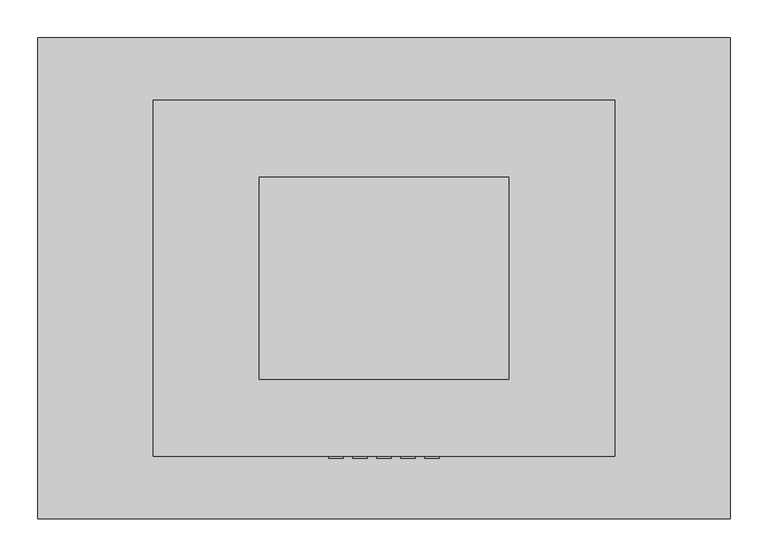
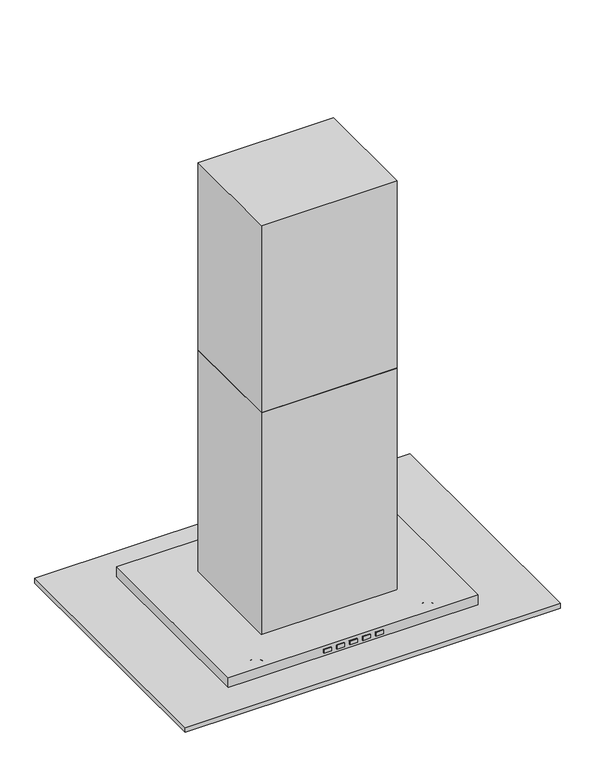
"""IFC4 building model written with IfcOpenShell, lengths in millimetres: light fixture geometry, Island_Range_Hood_-_Venice_5338 : Island_Range_Hood_-_Venice_5338."""

from ifc_helpers import new_model, si_unit, point, frame, frame_2d, origin, place, context, project, spatial, polyline, circle_curve, ellipse_curve, trimmed, segment, composite_curve, outline, extrude, source, transform, mapped, element, save
from ifc_brep_helpers import plane_surface, cylinder_surface, revolved_surface, advanced_brep


def light_fixture_2c5a0347(model_context):
    return source(origin(), model_context, "Body", "SolidModel", [
        advanced_brep(
        [(-209.0619324, -162.1094756, 1371.6), (-209.0619324, -212.9094756, 1371.6), (-209.0619324, 212.9094756, 1371.6), (-209.0619324, 162.1094756, 1371.6), (209.0619324, -162.1094756, 1371.6), (209.0619324, -212.9094756, 1371.6), (209.0619324, 212.9094756, 1371.6), (209.0619324, 162.1094756, 1371.6), (241.3, -127.0, 1371.6), (-241.3, -127.0, 1371.6), (-241.3, 127.0, 1371.6), (241.3, 127.0, 1371.6), (-304.8, 234.95, 1384.3), (-304.8, -234.95, 1384.3), (304.8, -234.95, 1384.3), (304.8, 234.95, 1384.3), (304.8, 234.95, 1346.2), (-304.8, 234.95, 1346.2), (304.8, -234.95, 1346.2), (-304.8, -234.95, 1346.2), (-209.0619324, -162.1094756, 1346.2), (-209.0619324, -212.9094756, 1346.2), (-209.0619324, 212.9094756, 1346.2), (-209.0619324, 162.1094756, 1346.2), (209.0619324, -162.1094756, 1346.2), (209.0619324, -212.9094756, 1346.2), (209.0619324, 212.9094756, 1346.2), (209.0619324, 162.1094756, 1346.2), (241.3, -127.0, 1346.2), (241.3, 127.0, 1346.2), (-241.3, 127.0, 1346.2), (-241.3, -127.0, 1346.2)],
        [
            (0, 1, circle_curve(frame((-209.0619324, -187.5094756, 1371.6), z_axis=(0.0, 0.0, -1.0), x_axis=(0.0, -1.0, 0.0)), 25.4)),
            (1, 0, circle_curve(frame((-209.0619324, -187.5094756, 1371.6), z_axis=(0.0, 0.0, -1.0), x_axis=(0.0, -1.0, 0.0)), 25.4)),
            (2, 3, circle_curve(frame((-209.0619324, 187.5094756, 1371.6), z_axis=(0.0, 0.0, -1.0), x_axis=(0.0, -1.0, 0.0)), 25.4)),
            (3, 2, circle_curve(frame((-209.0619324, 187.5094756, 1371.6), z_axis=(0.0, 0.0, -1.0), x_axis=(0.0, -1.0, 0.0)), 25.4)),
            (4, 5, circle_curve(frame((209.0619324, -187.5094756, 1371.6), z_axis=(0.0, 0.0, -1.0), x_axis=(0.0, -1.0, 0.0)), 25.4)),
            (5, 4, circle_curve(frame((209.0619324, -187.5094756, 1371.6), z_axis=(0.0, 0.0, -1.0), x_axis=(0.0, -1.0, 0.0)), 25.4)),
            (6, 7, circle_curve(frame((209.0619324, 187.5094756, 1371.6), z_axis=(0.0, 0.0, -1.0), x_axis=(0.0, -1.0, 0.0)), 25.4)),
            (7, 6, circle_curve(frame((209.0619324, 187.5094756, 1371.6), z_axis=(0.0, 0.0, -1.0), x_axis=(0.0, -1.0, 0.0)), 25.4)),
            (8, 9),
            (9, 10),
            (10, 11),
            (11, 8),
            (12, 13),
            (13, 14),
            (14, 15),
            (15, 12),
            (15, 16),
            (16, 17),
            (17, 12),
            (14, 18),
            (18, 16),
            (13, 19),
            (19, 18),
            (17, 19),
            (20, 21, circle_curve(frame((-209.0619324, -187.5094756, 1346.2), z_axis=(0.0, 0.0, 1.0), x_axis=(0.0, -1.0, 0.0)), 25.4)),
            (21, 20, circle_curve(frame((-209.0619324, -187.5094756, 1346.2), z_axis=(0.0, 0.0, 1.0), x_axis=(0.0, -1.0, 0.0)), 25.4)),
            (22, 23, circle_curve(frame((-209.0619324, 187.5094756, 1346.2), z_axis=(0.0, 0.0, 1.0), x_axis=(0.0, -1.0, 0.0)), 25.4)),
            (23, 22, circle_curve(frame((-209.0619324, 187.5094756, 1346.2), z_axis=(0.0, 0.0, 1.0), x_axis=(0.0, -1.0, 0.0)), 25.4)),
            (24, 25, circle_curve(frame((209.0619324, -187.5094756, 1346.2), z_axis=(0.0, 0.0, 1.0), x_axis=(0.0, -1.0, 0.0)), 25.4)),
            (25, 24, circle_curve(frame((209.0619324, -187.5094756, 1346.2), z_axis=(0.0, 0.0, 1.0), x_axis=(0.0, -1.0, 0.0)), 25.4)),
            (26, 27, circle_curve(frame((209.0619324, 187.5094756, 1346.2), z_axis=(0.0, 0.0, 1.0), x_axis=(0.0, -1.0, 0.0)), 25.4)),
            (27, 26, circle_curve(frame((209.0619324, 187.5094756, 1346.2), z_axis=(0.0, 0.0, 1.0), x_axis=(0.0, -1.0, 0.0)), 25.4)),
            (28, 29),
            (29, 30),
            (30, 31),
            (31, 28),
            (21, 1),
            (0, 20),
            (23, 3),
            (2, 22),
            (25, 5),
            (4, 24),
            (27, 7),
            (6, 26),
            (31, 9),
            (8, 28),
            (30, 10),
            (29, 11),
        ],
        [
            plane_surface(frame((0.0, 0.0, 1371.6), z_axis=(0.0, 0.0, -1.0), x_axis=(0.0, -1.0, 0.0))),
            plane_surface(frame((0.0, 0.0, 1384.3), z_axis=(0.0, 0.0, 1.0), x_axis=(0.0, -1.0, 0.0))),
            plane_surface(frame((-304.8, 234.95, 1371.6), z_axis=(0.0, 1.0, 0.0), x_axis=(0.0, 0.0, 1.0))),
            plane_surface(frame((304.8, 234.95, 1371.6), z_axis=(1.0, 0.0, 0.0), x_axis=(0.0, 0.0, 1.0))),
            plane_surface(frame((304.8, -234.95, 1371.6), z_axis=(0.0, -1.0, 0.0), x_axis=(0.0, 0.0, 1.0))),
            plane_surface(frame((-304.8, -234.95, 1371.6), z_axis=(-1.0, 0.0, 0.0), x_axis=(0.0, 0.0, 1.0))),
            plane_surface(frame((0.0, 0.0, 1346.2), z_axis=(0.0, 0.0, -1.0), x_axis=(0.0, -1.0, 0.0))),
            revolved_surface(polyline([(-209.0619324, -212.9094756, 1346.2), (-209.0619324, -212.9094756, 1371.6)]), (-209.0619324, -187.5094756, 1371.6), (0.0, 0.0, -1.0)),
            revolved_surface(polyline([(-209.0619324, 162.1094756, 1346.2), (-209.0619324, 162.1094756, 1371.6)]), (-209.0619324, 187.5094756, 1371.6), (0.0, 0.0, -1.0)),
            revolved_surface(polyline([(209.0619324, -212.9094756, 1346.2), (209.0619324, -212.9094756, 1371.6)]), (209.0619324, -187.5094756, 1371.6), (0.0, 0.0, -1.0)),
            revolved_surface(polyline([(209.0619324, 162.1094756, 1346.2), (209.0619324, 162.1094756, 1371.6)]), (209.0619324, 187.5094756, 1371.6), (0.0, 0.0, -1.0)),
            plane_surface(frame((241.3, -127.0, 1371.6), z_axis=(0.0, 1.0, 0.0), x_axis=(0.0, 0.0, -1.0))),
            plane_surface(frame((-241.3, -127.0, 1371.6), z_axis=(1.0, 0.0, 0.0), x_axis=(0.0, 0.0, -1.0))),
            plane_surface(frame((-241.3, 127.0, 1371.6), z_axis=(0.0, -1.0, 0.0), x_axis=(0.0, 0.0, -1.0))),
            plane_surface(frame((241.3, 127.0, 1371.6), z_axis=(-1.0, 0.0, 0.0), x_axis=(0.0, 0.0, -1.0))),
        ],
        [
            (0, [[1, 2]]),
            (0, [[3, 4]]),
            (0, [[5, 6]]),
            (0, [[7, 8]]),
            (0, [[9, 10, 11, 12]]),
            (1, [[13, 14, 15, 16]]),
            (2, [[-16, 17, 18, 19]]),
            (3, [[-17, -15, 20, 21]]),
            (4, [[-20, -14, 22, 23]]),
            (5, [[-22, -13, -19, 24]]),
            (6, [[-18, -21, -23, -24], [25, 26], [27, 28], [29, 30], [31, 32], [33, 34, 35, 36]]),
            (7, [[-26, 37, -1, 38]]),
            (7, [[-25, -38, -2, -37]]),
            (8, [[-28, 39, -3, 40]]),
            (8, [[-27, -40, -4, -39]]),
            (9, [[-30, 41, -5, 42]]),
            (9, [[-29, -42, -6, -41]]),
            (10, [[-32, 43, -7, 44]]),
            (10, [[-31, -44, -8, -43]]),
            (11, [[-36, 45, -9, 46]]),
            (12, [[-35, 47, -10, -45]]),
            (13, [[-34, 48, -11, -47]]),
            (14, [[-33, -46, -12, -48]]),
        ],
    ),
        extrude(outline(composite_curve([segment(trimmed(circle_curve(frame_2d((-209.0619324, -187.5094756)), 22.225), [point((-231.2869324, -187.5094756))], [point((-186.8369324, -187.5094756))], False, "CARTESIAN"), True, "CONTINUOUS"), segment(trimmed(circle_curve(frame_2d((-209.0619324, -187.5094756)), 22.225), [point((-186.8369324, -187.5094756))], [point((-231.2869324, -187.5094756))], False, "CARTESIAN"), True, "CONTINUOUS")], self_intersect=False)), frame((0.0, 0.0, 1344.6589682), z_axis=(0.0, 0.0, 1.0), x_axis=(1.0, 0.0, 0.0)), (0.0, 0.0, 1.0), 2.9942713),
        extrude(outline(composite_curve([segment(trimmed(circle_curve(frame_2d((209.0619324, -187.5094756)), 22.225), [point((186.8369324, -187.5094756))], [point((231.2869324, -187.5094756))], False, "CARTESIAN"), True, "CONTINUOUS"), segment(trimmed(circle_curve(frame_2d((209.0619324, -187.5094756)), 22.225), [point((231.2869324, -187.5094756))], [point((186.8369324, -187.5094756))], False, "CARTESIAN"), True, "CONTINUOUS")], self_intersect=False)), frame((0.0, 0.0, 1344.6589682), z_axis=(0.0, 0.0, 1.0), x_axis=(1.0, 0.0, 0.0)), (0.0, 0.0, 1.0), 2.9942713),
        extrude(outline(composite_curve([segment(trimmed(circle_curve(frame_2d((-209.0619324, 187.5094756)), 22.225), [point((-231.2869324, 187.5094756))], [point((-186.8369324, 187.5094756))], False, "CARTESIAN"), True, "CONTINUOUS"), segment(trimmed(circle_curve(frame_2d((-209.0619324, 187.5094756)), 22.225), [point((-186.8369324, 187.5094756))], [point((-231.2869324, 187.5094756))], False, "CARTESIAN"), True, "CONTINUOUS")], self_intersect=False)), frame((0.0, 0.0, 1344.6589682), z_axis=(0.0, 0.0, 1.0), x_axis=(1.0, 0.0, 0.0)), (0.0, 0.0, 1.0), 2.9942713),
        extrude(outline(composite_curve([segment(trimmed(circle_curve(frame_2d((209.0619324, 187.5094756)), 22.225), [point((186.8369324, 187.5094756))], [point((231.2869324, 187.5094756))], False, "CARTESIAN"), True, "CONTINUOUS"), segment(trimmed(circle_curve(frame_2d((209.0619324, 187.5094756)), 22.225), [point((231.2869324, 187.5094756))], [point((186.8369324, 187.5094756))], False, "CARTESIAN"), True, "CONTINUOUS")], self_intersect=False)), frame((0.0, 0.0, 1344.6589682), z_axis=(0.0, 0.0, 1.0), x_axis=(1.0, 0.0, 0.0)), (0.0, 0.0, 1.0), 2.9942713),
        extrude(outline(polyline([(-9.525, -234.95), (9.525, -234.95), (9.525, -237.6432213), (-9.525, -237.6432213), (-9.525, -234.95)])), frame((0.0, 0.0, 1366.8375), z_axis=(0.0, 0.0, 1.0), x_axis=(1.0, 0.0, 0.0)), (0.0, 0.0, 1.0), 9.525),
        extrude(outline(polyline([(22.225, -234.95), (41.275, -234.95), (41.275, -237.6432213), (22.225, -237.6432213), (22.225, -234.95)])), frame((0.0, 0.0, 1366.8375), z_axis=(0.0, 0.0, 1.0), x_axis=(1.0, 0.0, 0.0)), (0.0, 0.0, 1.0), 9.525),
        extrude(outline(polyline([(53.975, -234.95), (73.025, -234.95), (73.025, -237.6432213), (53.975, -237.6432213), (53.975, -234.95)])), frame((0.0, 0.0, 1366.8375), z_axis=(0.0, 0.0, 1.0), x_axis=(1.0, 0.0, 0.0)), (0.0, 0.0, 1.0), 9.525),
        extrude(outline(polyline([(-41.275, -234.95), (-22.225, -234.95), (-22.225, -237.6432213), (-41.275, -237.6432213), (-41.275, -234.95)])), frame((0.0, 0.0, 1366.8375), z_axis=(0.0, 0.0, 1.0), x_axis=(1.0, 0.0, 0.0)), (0.0, 0.0, 1.0), 9.525),
        extrude(outline(polyline([(-73.025, -234.95), (-53.975, -234.95), (-53.975, -237.6432213), (-73.025, -237.6432213), (-73.025, -234.95)])), frame((0.0, 0.0, 1366.8375), z_axis=(0.0, 0.0, 1.0), x_axis=(1.0, 0.0, 0.0)), (0.0, 0.0, 1.0), 9.525),
        advanced_brep(
        [(-170.9619324, 187.5094756, 1344.6589682), (-247.1619324, 187.5094756, 1344.6589682), (-247.1619324, 187.5094756, 1346.2), (-170.9619324, 187.5094756, 1346.2), (-186.4738453, 187.5094756, 1344.6589682), (-231.6500195, 187.5094756, 1344.6589682), (-186.4738453, 187.5094756, 1347.6532394), (-231.6500195, 187.5094756, 1347.6532394), (-209.0619324, 187.5094756, 1365.25), (-183.6619324, 187.5094756, 1372.6673942), (-234.4619324, 187.5094756, 1372.6673942), (-209.0619324, 187.5094756, 1372.6673942), (-183.6619324, 187.5094756, 1346.2), (-234.4619324, 187.5094756, 1346.2)],
        [
            (0, 1, circle_curve(frame((-209.0619324, 187.5094756, 1344.6589682), z_axis=(0.0, 0.0, 1.0), x_axis=(-1.0, 0.0, 0.0)), 38.1)),
            (1, 2),
            (2, 3, circle_curve(frame((-209.0619324, 187.5094756, 1346.2), z_axis=(0.0, 0.0, -1.0), x_axis=(-1.0, 0.0, 0.0)), 38.1)),
            (3, 0),
            (1, 0, circle_curve(frame((-209.0619324, 187.5094756, 1344.6589682), z_axis=(0.0, 0.0, 1.0), x_axis=(-1.0, 0.0, 0.0)), 38.1)),
            (3, 2, circle_curve(frame((-209.0619324, 187.5094756, 1346.2), z_axis=(0.0, 0.0, -1.0), x_axis=(-1.0, 0.0, 0.0)), 38.1)),
            (4, 5, circle_curve(frame((-209.0619324, 187.5094756, 1344.6589682), z_axis=(0.0, 0.0, 1.0), x_axis=(-1.0, 0.0, 0.0)), 22.5880871)),
            (5, 1),
            (0, 4),
            (5, 4, circle_curve(frame((-209.0619324, 187.5094756, 1344.6589682), z_axis=(0.0, 0.0, 1.0), x_axis=(-1.0, 0.0, 0.0)), 22.5880871)),
            (6, 7, circle_curve(frame((-209.0619324, 187.5094756, 1347.6532394), z_axis=(0.0, 0.0, 1.0), x_axis=(-1.0, 0.0, 0.0)), 22.5880871)),
            (7, 5),
            (4, 6),
            (7, 6, circle_curve(frame((-209.0619324, 187.5094756, 1347.6532394), z_axis=(0.0, 0.0, 1.0), x_axis=(-1.0, 0.0, 0.0)), 22.5880871)),
            (8, 7, circle_curve(frame((-207.8094645, 187.5094756, 1340.3462864), z_axis=(0.0, -1.0, 0.0), x_axis=(1.0, 0.0, 0.0)), 24.9351886)),
            (6, 8, circle_curve(frame((-210.3144003, 187.5094756, 1340.3462864), z_axis=(0.0, -1.0, 0.0), x_axis=(-1.0, 0.0, 0.0)), 24.9351886)),
            (9, 10, circle_curve(frame((-209.0619324, 187.5094756, 1372.6673942), z_axis=(0.0, 0.0, 1.0), x_axis=(-1.0, 0.0, 0.0)), 25.4)),
            (10, 11),
            (11, 9),
            (10, 9, circle_curve(frame((-209.0619324, 187.5094756, 1372.6673942), z_axis=(0.0, 0.0, 1.0), x_axis=(-1.0, 0.0, 0.0)), 25.4)),
            (12, 13, circle_curve(frame((-209.0619324, 187.5094756, 1346.2), z_axis=(0.0, 0.0, 1.0), x_axis=(-1.0, 0.0, 0.0)), 25.4)),
            (13, 10),
            (9, 12),
            (13, 12, circle_curve(frame((-209.0619324, 187.5094756, 1346.2), z_axis=(0.0, 0.0, 1.0), x_axis=(-1.0, 0.0, 0.0)), 25.4)),
            (2, 13),
            (12, 3),
        ],
        [
            cylinder_surface(frame((-209.0619324, 187.5094756, 1346.2), z_axis=(0.0, 0.0, -1.0), x_axis=(-1.0, 0.0, 0.0)), 38.1),
            plane_surface(frame((-209.0619324, 187.5094756, 1344.6589682), z_axis=(0.0, 0.0, -1.0), x_axis=(-1.0, 0.0, 0.0))),
            revolved_surface(polyline([(-231.65001949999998, 187.5094756, 1344.6589682), (-231.65001949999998, 187.5094756, 1347.6532394)]), (-209.0619324, 187.5094756, 1346.2), (0.0, 0.0, -1.0)),
            revolved_surface(trimmed(ellipse_curve(frame((-207.8094645, 187.5094756, 1340.3462864), z_axis=(0.0, 1.0, 0.0), x_axis=(1.0, 0.0, 0.0)), 24.9351886, 24.9351886), [point((-231.6500195, 187.5094756, 1347.6532394))], [point((-209.0619324, 187.5094756, 1365.25))], True, "CARTESIAN"), (-209.0619324, 187.5094756, 1346.2), (0.0, 0.0, -1.0)),
            plane_surface(frame((-209.0619324, 187.5094756, 1372.6673942), z_axis=(0.0, 0.0, 1.0), x_axis=(-1.0, 0.0, 0.0))),
            cylinder_surface(frame((-209.0619324, 187.5094756, 1346.2), z_axis=(0.0, 0.0, -1.0), x_axis=(-1.0, 0.0, 0.0)), 25.4),
            plane_surface(frame((-209.0619324, 187.5094756, 1346.2), z_axis=(0.0, 0.0, 1.0), x_axis=(-1.0, 0.0, 0.0))),
        ],
        [
            (0, [[1, 2, 3, 4]]),
            (0, [[5, -4, 6, -2]]),
            (1, [[7, 8, -1, 9]]),
            (1, [[10, -9, -5, -8]]),
            (2, [[11, 12, -7, 13]]),
            (2, [[14, -13, -10, -12]]),
            (3, [[15, -11, 16]]),
            (3, [[-16, -14, -15]]),
            (4, [[17, 18, 19]]),
            (4, [[20, -19, -18]]),
            (5, [[21, 22, -17, 23]]),
            (5, [[24, -23, -20, -22]]),
            (6, [[-3, 25, -21, 26]]),
            (6, [[-6, -26, -24, -25]]),
        ],
    ),
        advanced_brep(
        [(-183.6619324, -187.5094756, 1346.2), (-234.4619324, -187.5094756, 1346.2), (-247.1619324, -187.5094756, 1346.2), (-170.9619324, -187.5094756, 1346.2), (-183.6619324, -187.5094756, 1372.6673942), (-234.4619324, -187.5094756, 1372.6673942), (-209.0619324, -187.5094756, 1372.6673942), (-186.4738453, -187.5094756, 1347.6532394), (-231.6500195, -187.5094756, 1347.6532394), (-209.0619324, -187.5094756, 1365.25), (-186.4738453, -187.5094756, 1344.6589682), (-231.6500195, -187.5094756, 1344.6589682), (-170.9619324, -187.5094756, 1344.6589682), (-247.1619324, -187.5094756, 1344.6589682)],
        [
            (0, 1, circle_curve(frame((-209.0619324, -187.5094756, 1346.2), z_axis=(0.0, 0.0, -1.0), x_axis=(-1.0, 0.0, 0.0)), 25.4)),
            (1, 2),
            (2, 3, circle_curve(frame((-209.0619324, -187.5094756, 1346.2), z_axis=(0.0, 0.0, 1.0), x_axis=(-1.0, 0.0, 0.0)), 38.1)),
            (3, 0),
            (1, 0, circle_curve(frame((-209.0619324, -187.5094756, 1346.2), z_axis=(0.0, 0.0, -1.0), x_axis=(-1.0, 0.0, 0.0)), 25.4)),
            (3, 2, circle_curve(frame((-209.0619324, -187.5094756, 1346.2), z_axis=(0.0, 0.0, 1.0), x_axis=(-1.0, 0.0, 0.0)), 38.1)),
            (4, 5, circle_curve(frame((-209.0619324, -187.5094756, 1372.6673942), z_axis=(0.0, 0.0, -1.0), x_axis=(-1.0, 0.0, 0.0)), 25.4)),
            (5, 1),
            (0, 4),
            (5, 4, circle_curve(frame((-209.0619324, -187.5094756, 1372.6673942), z_axis=(0.0, 0.0, -1.0), x_axis=(-1.0, 0.0, 0.0)), 25.4)),
            (6, 5),
            (4, 6),
            (7, 8, circle_curve(frame((-209.0619324, -187.5094756, 1347.6532394), z_axis=(0.0, 0.0, -1.0), x_axis=(-1.0, 0.0, 0.0)), 22.5880871)),
            (8, 9, circle_curve(frame((-207.8094645, -187.5094756, 1340.3462864), z_axis=(0.0, 1.0, 0.0), x_axis=(1.0, 0.0, 0.0)), 24.9351886)),
            (9, 7, circle_curve(frame((-210.3144003, -187.5094756, 1340.3462864), z_axis=(0.0, 1.0, 0.0), x_axis=(-1.0, 0.0, 0.0)), 24.9351886)),
            (8, 7, circle_curve(frame((-209.0619324, -187.5094756, 1347.6532394), z_axis=(0.0, 0.0, -1.0), x_axis=(-1.0, 0.0, 0.0)), 22.5880871)),
            (10, 11, circle_curve(frame((-209.0619324, -187.5094756, 1344.6589682), z_axis=(0.0, 0.0, -1.0), x_axis=(-1.0, 0.0, 0.0)), 22.5880871)),
            (11, 8),
            (7, 10),
            (11, 10, circle_curve(frame((-209.0619324, -187.5094756, 1344.6589682), z_axis=(0.0, 0.0, -1.0), x_axis=(-1.0, 0.0, 0.0)), 22.5880871)),
            (12, 13, circle_curve(frame((-209.0619324, -187.5094756, 1344.6589682), z_axis=(0.0, 0.0, -1.0), x_axis=(-1.0, 0.0, 0.0)), 38.1)),
            (13, 11),
            (10, 12),
            (13, 12, circle_curve(frame((-209.0619324, -187.5094756, 1344.6589682), z_axis=(0.0, 0.0, -1.0), x_axis=(-1.0, 0.0, 0.0)), 38.1)),
            (2, 13),
            (12, 3),
        ],
        [
            plane_surface(frame((-209.0619324, -187.5094756, 1346.2), z_axis=(0.0, 0.0, 1.0), x_axis=(-1.0, 0.0, 0.0))),
            cylinder_surface(frame((-209.0619324, -187.5094756, 1346.2), z_axis=(0.0, 0.0, 1.0), x_axis=(-1.0, 0.0, 0.0)), 25.4),
            plane_surface(frame((-209.0619324, -187.5094756, 1372.6673942), z_axis=(0.0, 0.0, 1.0), x_axis=(-1.0, 0.0, 0.0))),
            revolved_surface(trimmed(ellipse_curve(frame((-207.8094645, -187.5094756, 1340.3462864), z_axis=(0.0, -1.0, 0.0), x_axis=(1.0, 0.0, 0.0)), 24.9351886, 24.9351886), [point((-209.0619324, -187.5094756, 1365.25))], [point((-231.6500195, -187.5094756, 1347.6532394))], True, "CARTESIAN"), (-209.0619324, -187.5094756, 1346.2), (0.0, 0.0, 1.0)),
            revolved_surface(polyline([(-231.65001949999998, -187.5094756, 1347.6532394), (-231.65001949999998, -187.5094756, 1344.6589682)]), (-209.0619324, -187.5094756, 1346.2), (0.0, 0.0, 1.0)),
            plane_surface(frame((-209.0619324, -187.5094756, 1344.6589682), z_axis=(0.0, 0.0, -1.0), x_axis=(-1.0, 0.0, 0.0))),
            cylinder_surface(frame((-209.0619324, -187.5094756, 1346.2), z_axis=(0.0, 0.0, 1.0), x_axis=(-1.0, 0.0, 0.0)), 38.1),
        ],
        [
            (0, [[1, 2, 3, 4]]),
            (0, [[5, -4, 6, -2]]),
            (1, [[7, 8, -1, 9]]),
            (1, [[10, -9, -5, -8]]),
            (2, [[11, -7, 12]]),
            (2, [[-12, -10, -11]]),
            (3, [[13, 14, 15]]),
            (3, [[16, -15, -14]]),
            (4, [[17, 18, -13, 19]]),
            (4, [[20, -19, -16, -18]]),
            (5, [[21, 22, -17, 23]]),
            (5, [[24, -23, -20, -22]]),
            (6, [[-3, 25, -21, 26]]),
            (6, [[-6, -26, -24, -25]]),
        ],
    ),
        advanced_brep(
        [(183.6619324, 187.5094756, 1346.2), (234.4619324, 187.5094756, 1346.2), (247.1619324, 187.5094756, 1346.2), (170.9619324, 187.5094756, 1346.2), (183.6619324, 187.5094756, 1372.6673942), (234.4619324, 187.5094756, 1372.6673942), (209.0619324, 187.5094756, 1372.6673942), (186.4738453, 187.5094756, 1347.6532394), (231.6500195, 187.5094756, 1347.6532394), (209.0619324, 187.5094756, 1365.25), (186.4738453, 187.5094756, 1344.6589682), (231.6500195, 187.5094756, 1344.6589682), (170.9619324, 187.5094756, 1344.6589682), (247.1619324, 187.5094756, 1344.6589682)],
        [
            (0, 1, circle_curve(frame((209.0619324, 187.5094756, 1346.2), z_axis=(0.0, 0.0, -1.0), x_axis=(1.0, 0.0, 0.0)), 25.4)),
            (1, 2),
            (2, 3, circle_curve(frame((209.0619324, 187.5094756, 1346.2), z_axis=(0.0, 0.0, 1.0), x_axis=(1.0, 0.0, 0.0)), 38.1)),
            (3, 0),
            (1, 0, circle_curve(frame((209.0619324, 187.5094756, 1346.2), z_axis=(0.0, 0.0, -1.0), x_axis=(1.0, 0.0, 0.0)), 25.4)),
            (3, 2, circle_curve(frame((209.0619324, 187.5094756, 1346.2), z_axis=(0.0, 0.0, 1.0), x_axis=(1.0, 0.0, 0.0)), 38.1)),
            (4, 5, circle_curve(frame((209.0619324, 187.5094756, 1372.6673942), z_axis=(0.0, 0.0, -1.0), x_axis=(1.0, 0.0, 0.0)), 25.4)),
            (5, 1),
            (0, 4),
            (5, 4, circle_curve(frame((209.0619324, 187.5094756, 1372.6673942), z_axis=(0.0, 0.0, -1.0), x_axis=(1.0, 0.0, 0.0)), 25.4)),
            (6, 5),
            (4, 6),
            (7, 8, circle_curve(frame((209.0619324, 187.5094756, 1347.6532394), z_axis=(0.0, 0.0, -1.0), x_axis=(1.0, 0.0, 0.0)), 22.5880871)),
            (8, 9, circle_curve(frame((207.8094645, 187.5094756, 1340.3462864), z_axis=(0.0, -1.0, 0.0), x_axis=(-1.0, 0.0, 0.0)), 24.9351886)),
            (9, 7, circle_curve(frame((210.3144003, 187.5094756, 1340.3462864), z_axis=(0.0, -1.0, 0.0), x_axis=(1.0, 0.0, 0.0)), 24.9351886)),
            (8, 7, circle_curve(frame((209.0619324, 187.5094756, 1347.6532394), z_axis=(0.0, 0.0, -1.0), x_axis=(1.0, 0.0, 0.0)), 22.5880871)),
            (10, 11, circle_curve(frame((209.0619324, 187.5094756, 1344.6589682), z_axis=(0.0, 0.0, -1.0), x_axis=(1.0, 0.0, 0.0)), 22.5880871)),
            (11, 8),
            (7, 10),
            (11, 10, circle_curve(frame((209.0619324, 187.5094756, 1344.6589682), z_axis=(0.0, 0.0, -1.0), x_axis=(1.0, 0.0, 0.0)), 22.5880871)),
            (12, 13, circle_curve(frame((209.0619324, 187.5094756, 1344.6589682), z_axis=(0.0, 0.0, -1.0), x_axis=(1.0, 0.0, 0.0)), 38.1)),
            (13, 11),
            (10, 12),
            (13, 12, circle_curve(frame((209.0619324, 187.5094756, 1344.6589682), z_axis=(0.0, 0.0, -1.0), x_axis=(1.0, 0.0, 0.0)), 38.1)),
            (2, 13),
            (12, 3),
        ],
        [
            plane_surface(frame((209.0619324, 187.5094756, 1346.2), z_axis=(0.0, 0.0, 1.0), x_axis=(1.0, 0.0, 0.0))),
            cylinder_surface(frame((209.0619324, 187.5094756, 1346.2), z_axis=(0.0, 0.0, 1.0), x_axis=(1.0, 0.0, 0.0)), 25.4),
            plane_surface(frame((209.0619324, 187.5094756, 1372.6673942), z_axis=(0.0, 0.0, 1.0), x_axis=(1.0, 0.0, 0.0))),
            revolved_surface(trimmed(ellipse_curve(frame((207.8094645, 187.5094756, 1340.3462864), z_axis=(0.0, 1.0, 0.0), x_axis=(-1.0, 0.0, 0.0)), 24.9351886, 24.9351886), [point((209.0619324, 187.5094756, 1365.25))], [point((231.6500195, 187.5094756, 1347.6532394))], True, "CARTESIAN"), (209.0619324, 187.5094756, 1346.2), (0.0, 0.0, 1.0)),
            revolved_surface(polyline([(231.65001949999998, 187.5094756, 1347.6532394), (231.65001949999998, 187.5094756, 1344.6589682)]), (209.0619324, 187.5094756, 1346.2), (0.0, 0.0, 1.0)),
            plane_surface(frame((209.0619324, 187.5094756, 1344.6589682), z_axis=(0.0, 0.0, -1.0), x_axis=(1.0, 0.0, 0.0))),
            cylinder_surface(frame((209.0619324, 187.5094756, 1346.2), z_axis=(0.0, 0.0, 1.0), x_axis=(1.0, 0.0, 0.0)), 38.1),
        ],
        [
            (0, [[1, 2, 3, 4]]),
            (0, [[5, -4, 6, -2]]),
            (1, [[7, 8, -1, 9]]),
            (1, [[10, -9, -5, -8]]),
            (2, [[11, -7, 12]]),
            (2, [[-12, -10, -11]]),
            (3, [[13, 14, 15]]),
            (3, [[16, -15, -14]]),
            (4, [[17, 18, -13, 19]]),
            (4, [[20, -19, -16, -18]]),
            (5, [[21, 22, -17, 23]]),
            (5, [[24, -23, -20, -22]]),
            (6, [[-3, 25, -21, 26]]),
            (6, [[-6, -26, -24, -25]]),
        ],
    ),
        extrude(outline(polyline([(1358.9, 241.3), (1358.9, -241.3), (1346.2, -241.3), (1346.2, -236.5375), (1352.55, -236.5375), (1352.55, -233.3625), (1349.375, -233.3625), (1349.375, -230.1875), (1352.55, -230.1875), (1352.55, -227.0125), (1349.375, -227.0125), (1349.375, -223.8375), (1352.55, -223.8375), (1352.55, -220.6625), (1349.375, -220.6625), (1349.375, -217.4875), (1352.55, -217.4875), (1352.55, -214.3125), (1349.375, -214.3125), (1349.375, -211.1375), (1352.55, -211.1375), (1352.55, -207.9625), (1349.375, -207.9625), (1349.375, -204.7875), (1352.55, -204.7875), (1352.55, -201.6125), (1349.375, -201.6125), (1349.375, -198.4375), (1352.55, -198.4375), (1352.55, -195.2625), (1349.375, -195.2625), (1349.375, -192.0875), (1352.55, -192.0875), (1352.55, -188.9125), (1349.375, -188.9125), (1349.375, -185.7375), (1352.55, -185.7375), (1352.55, -182.5625), (1349.375, -182.5625), (1349.375, -179.3875), (1352.55, -179.3875), (1352.55, -176.2125), (1349.375, -176.2125), (1349.375, -173.0375), (1352.55, -173.0375), (1352.55, -169.8625), (1349.375, -169.8625), (1349.375, -166.6875), (1352.55, -166.6875), (1352.55, -163.5125), (1349.375, -163.5125), (1349.375, -160.3375), (1352.55, -160.3375), (1352.55, -157.1625), (1349.375, -157.1625), (1349.375, -153.9875), (1352.55, -153.9875), (1352.55, -150.8125), (1349.375, -150.8125), (1349.375, -147.6375), (1352.55, -147.6375), (1352.55, -144.4625), (1349.375, -144.4625), (1349.375, -141.2875), (1352.55, -141.2875), (1352.55, -138.1125), (1349.375, -138.1125), (1349.375, -134.9375), (1352.55, -134.9375), (1352.55, -131.7625), (1349.375, -131.7625), (1349.375, -128.5875), (1352.55, -128.5875), (1352.55, -125.4125), (1349.375, -125.4125), (1349.375, -122.2375), (1352.55, -122.2375), (1352.55, -119.0625), (1349.375, -119.0625), (1349.375, -115.8875), (1352.55, -115.8875), (1352.55, -112.7125), (1349.375, -112.7125), (1349.375, -109.5375), (1352.55, -109.5375), (1352.55, -106.3625), (1349.375, -106.3625), (1349.375, -103.1875), (1352.55, -103.1875), (1352.55, -100.0125), (1349.375, -100.0125), (1349.375, -96.8375), (1352.55, -96.8375), (1352.55, -93.6625), (1349.375, -93.6625), (1349.375, -90.4875), (1352.55, -90.4875), (1352.55, -87.3125), (1349.375, -87.3125), (1349.375, -84.1375), (1352.55, -84.1375), (1352.55, -80.9625), (1349.375, -80.9625), (1349.375, -77.7875), (1352.55, -77.7875), (1352.55, -74.6125), (1349.375, -74.6125), (1349.375, -71.4375), (1352.55, -71.4375), (1352.55, -68.2625), (1349.375, -68.2625), (1349.375, -65.0875), (1352.55, -65.0875), (1352.55, -61.9125), (1349.375, -61.9125), (1349.375, -58.7375), (1352.55, -58.7375), (1352.55, -55.5625), (1349.375, -55.5625), (1349.375, -52.3875), (1352.55, -52.3875), (1352.55, -49.2125), (1349.375, -49.2125), (1349.375, -46.0375), (1352.55, -46.0375), (1352.55, -42.8625), (1349.375, -42.8625), (1349.375, -39.6875), (1352.55, -39.6875), (1352.55, -36.5125), (1349.375, -36.5125), (1349.375, -33.3375), (1352.55, -33.3375), (1352.55, -30.1625), (1349.375, -30.1625), (1349.375, -26.9875), (1352.55, -26.9875), (1352.55, -23.8125), (1349.375, -23.8125), (1349.375, -20.6375), (1352.55, -20.6375), (1352.55, -17.4625), (1349.375, -17.4625), (1349.375, -14.2875), (1352.55, -14.2875), (1352.55, -11.1125), (1349.375, -11.1125), (1349.375, -7.9375), (1352.55, -7.9375), (1352.55, -4.7625), (1346.2, -4.7625), (1346.2, 4.7625), (1352.55, 4.7625), (1352.55, 7.9375), (1349.375, 7.9375), (1349.375, 11.1125), (1352.55, 11.1125), (1352.55, 14.2875), (1349.375, 14.2875), (1349.375, 17.4625), (1352.55, 17.4625), (1352.55, 20.6375), (1349.375, 20.6375), (1349.375, 23.8125), (1352.55, 23.8125), (1352.55, 26.9875), (1349.375, 26.9875), (1349.375, 30.1625), (1352.55, 30.1625), (1352.55, 33.3375), (1349.375, 33.3375), (1349.375, 36.5125), (1352.55, 36.5125), (1352.55, 39.6875), (1349.375, 39.6875), (1349.375, 42.8625), (1352.55, 42.8625), (1352.55, 46.0375), (1349.375, 46.0375), (1349.375, 49.2125), (1352.55, 49.2125), (1352.55, 52.3875), (1349.375, 52.3875), (1349.375, 55.5625), (1352.55, 55.5625), (1352.55, 58.7375), (1349.375, 58.7375), (1349.375, 61.9125), (1352.55, 61.9125), (1352.55, 65.0875), (1349.375, 65.0875), (1349.375, 68.2625), (1352.55, 68.2625), (1352.55, 71.4375), (1349.375, 71.4375), (1349.375, 74.6125), (1352.55, 74.6125), (1352.55, 77.7875), (1349.375, 77.7875), (1349.375, 80.9625), (1352.55, 80.9625), (1352.55, 84.1375), (1349.375, 84.1375), (1349.375, 87.3125), (1352.55, 87.3125), (1352.55, 90.4875), (1349.375, 90.4875), (1349.375, 93.6625), (1352.55, 93.6625), (1352.55, 96.8375), (1349.375, 96.8375), (1349.375, 100.0125), (1352.55, 100.0125), (1352.55, 103.1875), (1349.375, 103.1875), (1349.375, 106.3625), (1352.55, 106.3625), (1352.55, 109.5375), (1349.375, 109.5375), (1349.375, 112.7125), (1352.55, 112.7125), (1352.55, 115.8875), (1349.375, 115.8875), (1349.375, 119.0625), (1352.55, 119.0625), (1352.55, 122.2375), (1349.375, 122.2375), (1349.375, 125.4125), (1352.55, 125.4125), (1352.55, 128.5875), (1349.375, 128.5875), (1349.375, 131.7625), (1352.55, 131.7625), (1352.55, 134.9375), (1349.375, 134.9375), (1349.375, 138.1125), (1352.55, 138.1125), (1352.55, 141.2875), (1349.375, 141.2875), (1349.375, 144.4625), (1352.55, 144.4625), (1352.55, 147.6375), (1349.375, 147.6375), (1349.375, 150.8125), (1352.55, 150.8125), (1352.55, 153.9875), (1349.375, 153.9875), (1349.375, 157.1625), (1352.55, 157.1625), (1352.55, 160.3375), (1349.375, 160.3375), (1349.375, 163.5125), (1352.55, 163.5125), (1352.55, 166.6875), (1349.375, 166.6875), (1349.375, 169.8625), (1352.55, 169.8625), (1352.55, 173.0375), (1349.375, 173.0375), (1349.375, 176.2125), (1352.55, 176.2125), (1352.55, 179.3875), (1349.375, 179.3875), (1349.375, 182.5625), (1352.55, 182.5625), (1352.55, 185.7375), (1349.375, 185.7375), (1349.375, 188.9125), (1352.55, 188.9125), (1352.55, 192.0875), (1349.375, 192.0875), (1349.375, 195.2625), (1352.55, 195.2625), (1352.55, 198.4375), (1349.375, 198.4375), (1349.375, 201.6125), (1352.55, 201.6125), (1352.55, 204.7875), (1349.375, 204.7875), (1349.375, 207.9625), (1352.55, 207.9625), (1352.55, 211.1375), (1349.375, 211.1375), (1349.375, 214.3125), (1352.55, 214.3125), (1352.55, 217.4875), (1349.375, 217.4875), (1349.375, 220.6625), (1352.55, 220.6625), (1352.55, 223.8375), (1349.375, 223.8375), (1349.375, 227.0125), (1352.55, 227.0125), (1352.55, 230.1875), (1349.375, 230.1875), (1349.375, 233.3625), (1352.55, 233.3625), (1352.55, 236.5375), (1346.2, 236.5375), (1346.2, 241.3), (1358.9, 241.3)])), frame((0.0, -127.0, 0.0), z_axis=(0.0, 1.0, 0.0), x_axis=(0.0, 0.0, 1.0)), (0.0, 0.0, 1.0), 254.0),
        advanced_brep(
        [(170.9619324, -187.5094756, 1344.6589682), (247.1619324, -187.5094756, 1344.6589682), (247.1619324, -187.5094756, 1346.2), (170.9619324, -187.5094756, 1346.2), (186.4738453, -187.5094756, 1344.6589682), (231.6500195, -187.5094756, 1344.6589682), (186.4738453, -187.5094756, 1347.6532394), (231.6500195, -187.5094756, 1347.6532394), (209.0619324, -187.5094756, 1365.25), (183.6619324, -187.5094756, 1372.6673942), (234.4619324, -187.5094756, 1372.6673942), (209.0619324, -187.5094756, 1372.6673942), (183.6619324, -187.5094756, 1346.2), (234.4619324, -187.5094756, 1346.2)],
        [
            (0, 1, circle_curve(frame((209.0619324, -187.5094756, 1344.6589682), z_axis=(0.0, 0.0, 1.0), x_axis=(1.0, 0.0, 0.0)), 38.1)),
            (1, 2),
            (2, 3, circle_curve(frame((209.0619324, -187.5094756, 1346.2), z_axis=(0.0, 0.0, -1.0), x_axis=(1.0, 0.0, 0.0)), 38.1)),
            (3, 0),
            (1, 0, circle_curve(frame((209.0619324, -187.5094756, 1344.6589682), z_axis=(0.0, 0.0, 1.0), x_axis=(1.0, 0.0, 0.0)), 38.1)),
            (3, 2, circle_curve(frame((209.0619324, -187.5094756, 1346.2), z_axis=(0.0, 0.0, -1.0), x_axis=(1.0, 0.0, 0.0)), 38.1)),
            (4, 5, circle_curve(frame((209.0619324, -187.5094756, 1344.6589682), z_axis=(0.0, 0.0, 1.0), x_axis=(1.0, 0.0, 0.0)), 22.5880871)),
            (5, 1),
            (0, 4),
            (5, 4, circle_curve(frame((209.0619324, -187.5094756, 1344.6589682), z_axis=(0.0, 0.0, 1.0), x_axis=(1.0, 0.0, 0.0)), 22.5880871)),
            (6, 7, circle_curve(frame((209.0619324, -187.5094756, 1347.6532394), z_axis=(0.0, 0.0, 1.0), x_axis=(1.0, 0.0, 0.0)), 22.5880871)),
            (7, 5),
            (4, 6),
            (7, 6, circle_curve(frame((209.0619324, -187.5094756, 1347.6532394), z_axis=(0.0, 0.0, 1.0), x_axis=(1.0, 0.0, 0.0)), 22.5880871)),
            (8, 7, circle_curve(frame((207.8094645, -187.5094756, 1340.3462864), z_axis=(0.0, 1.0, 0.0), x_axis=(-1.0, 0.0, 0.0)), 24.9351886)),
            (6, 8, circle_curve(frame((210.3144003, -187.5094756, 1340.3462864), z_axis=(0.0, 1.0, 0.0), x_axis=(1.0, 0.0, 0.0)), 24.9351886)),
            (9, 10, circle_curve(frame((209.0619324, -187.5094756, 1372.6673942), z_axis=(0.0, 0.0, 1.0), x_axis=(1.0, 0.0, 0.0)), 25.4)),
            (10, 11),
            (11, 9),
            (10, 9, circle_curve(frame((209.0619324, -187.5094756, 1372.6673942), z_axis=(0.0, 0.0, 1.0), x_axis=(1.0, 0.0, 0.0)), 25.4)),
            (12, 13, circle_curve(frame((209.0619324, -187.5094756, 1346.2), z_axis=(0.0, 0.0, 1.0), x_axis=(1.0, 0.0, 0.0)), 25.4)),
            (13, 10),
            (9, 12),
            (13, 12, circle_curve(frame((209.0619324, -187.5094756, 1346.2), z_axis=(0.0, 0.0, 1.0), x_axis=(1.0, 0.0, 0.0)), 25.4)),
            (2, 13),
            (12, 3),
        ],
        [
            cylinder_surface(frame((209.0619324, -187.5094756, 1346.2), z_axis=(0.0, 0.0, -1.0), x_axis=(1.0, 0.0, 0.0)), 38.1),
            plane_surface(frame((209.0619324, -187.5094756, 1344.6589682), z_axis=(0.0, 0.0, -1.0), x_axis=(1.0, 0.0, 0.0))),
            revolved_surface(polyline([(231.65001949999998, -187.5094756, 1344.6589682), (231.65001949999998, -187.5094756, 1347.6532394)]), (209.0619324, -187.5094756, 1346.2), (0.0, 0.0, -1.0)),
            revolved_surface(trimmed(ellipse_curve(frame((207.8094645, -187.5094756, 1340.3462864), z_axis=(0.0, -1.0, 0.0), x_axis=(-1.0, 0.0, 0.0)), 24.9351886, 24.9351886), [point((231.6500195, -187.5094756, 1347.6532394))], [point((209.0619324, -187.5094756, 1365.25))], True, "CARTESIAN"), (209.0619324, -187.5094756, 1346.2), (0.0, 0.0, -1.0)),
            plane_surface(frame((209.0619324, -187.5094756, 1372.6673942), z_axis=(0.0, 0.0, 1.0), x_axis=(1.0, 0.0, 0.0))),
            cylinder_surface(frame((209.0619324, -187.5094756, 1346.2), z_axis=(0.0, 0.0, -1.0), x_axis=(1.0, 0.0, 0.0)), 25.4),
            plane_surface(frame((209.0619324, -187.5094756, 1346.2), z_axis=(0.0, 0.0, 1.0), x_axis=(1.0, 0.0, 0.0))),
        ],
        [
            (0, [[1, 2, 3, 4]]),
            (0, [[5, -4, 6, -2]]),
            (1, [[7, 8, -1, 9]]),
            (1, [[10, -9, -5, -8]]),
            (2, [[11, 12, -7, 13]]),
            (2, [[14, -13, -10, -12]]),
            (3, [[15, -11, 16]]),
            (3, [[-16, -14, -15]]),
            (4, [[17, 18, 19]]),
            (4, [[20, -19, -18]]),
            (5, [[21, 22, -17, 23]]),
            (5, [[24, -23, -20, -22]]),
            (6, [[-3, 25, -21, 26]]),
            (6, [[-6, -26, -24, -25]]),
        ],
    ),
        extrude(outline(polyline([(457.2, 317.5), (457.2, -317.5), (-457.2, -317.5), (-457.2, 317.5), (457.2, 317.5)]), holes=[polyline([(304.8, -234.95), (304.8, 234.95), (-304.8, 234.95), (-304.8, -234.95), (304.8, -234.95)])]), frame((0.0, 0.0, 1346.2), z_axis=(0.0, 0.0, 1.0), x_axis=(1.0, 0.0, 0.0)), (0.0, 0.0, 1.0), 12.7),
        extrude(outline(polyline([(165.1, -133.35), (-165.1, -133.35), (-165.1, 133.35), (165.1, 133.35), (165.1, -133.35)])), frame((0.0, 0.0, 1384.3), z_axis=(0.0, 0.0, 1.0), x_axis=(1.0, 0.0, 0.0)), (0.0, 0.0, 1.0), 571.5),
        extrude(outline(polyline([(-165.1, 133.35), (165.1, 133.35), (165.1, -133.35), (-165.1, -133.35), (-165.1, 133.35)])), frame((0.0, 0.0, 1955.8), z_axis=(0.0, 0.0, 1.0), x_axis=(1.0, 0.0, 0.0)), (0.0, 0.0, 1.0), 482.6),
    ])


if __name__ == "__main__":
    model = new_model("IFC4")
    model_context = context("Model", 3, world=origin())
    ifc_project = project(units=[si_unit("LENGTHUNIT", "METRE", prefix="MILLI")], contexts=[model_context])
    site = spatial("IfcSite", under=ifc_project)
    building = spatial("IfcBuilding", under=site)
    placement = place(None, origin())
    light_fixture_shape = light_fixture_2c5a0347(model_context)
    element("IfcLightFixture", 1, ObjectType="Island_Range_Hood_-_Venice_5338 : Island_Range_Hood_-_Venice_5338", at=placement, inside=building, context=model_context, shape_type="MappedRepresentation", body=[
        mapped(light_fixture_shape, transform((0.0, 0.0, 0.0), x_axis=(1.0, 0.0, 0.0), y_axis=(0.0, 1.0, 0.0), z_axis=(0.0, 0.0, 1.0))),
    ])
    save(model, "model.ifc")
